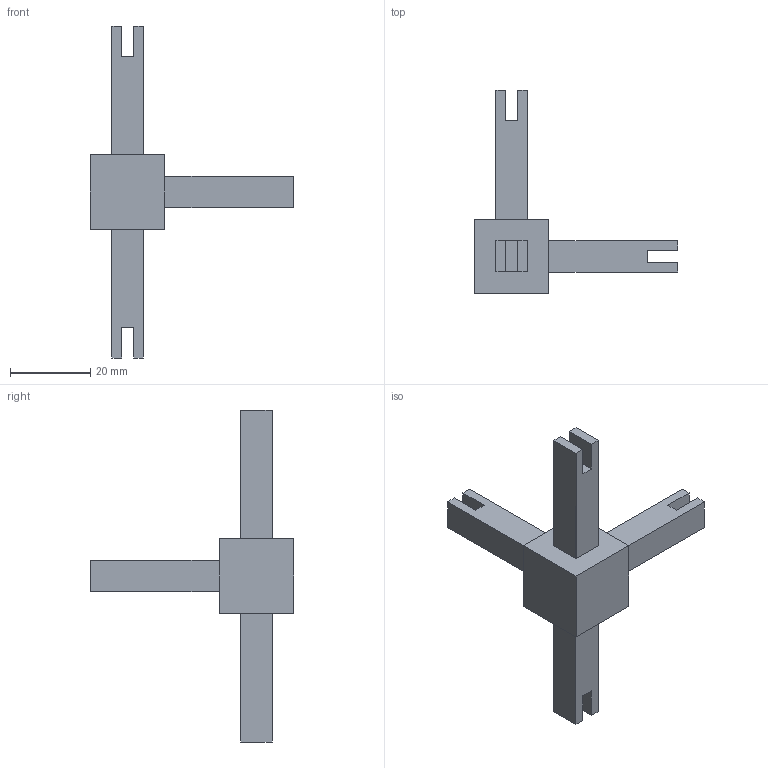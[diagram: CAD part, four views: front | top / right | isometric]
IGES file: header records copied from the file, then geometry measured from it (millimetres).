
Start section: Data from Parasolid IGES Translator 20.0.26, Copyright(c) 2006 Siemens P LM Software. All Rights Reserved.
Global section: file name: 9298833.igs; native system: By Siemens PLM Incorporated; preprocessor: XPlus GENERIC/IGES 20.0.26; author: Noname; organization: Noname; date: 20210826.184358; units: millimetre
Bounding box: 50.5 x 50.5 x 82.5 mm (x, y, z)
Surface area: 6335.1 mm2 (no closed solid volume)
Topology: 0 solids, 0 shells, 42 faces, 216 edges, 216 vertices
Faces by surface type: extrusion 42
